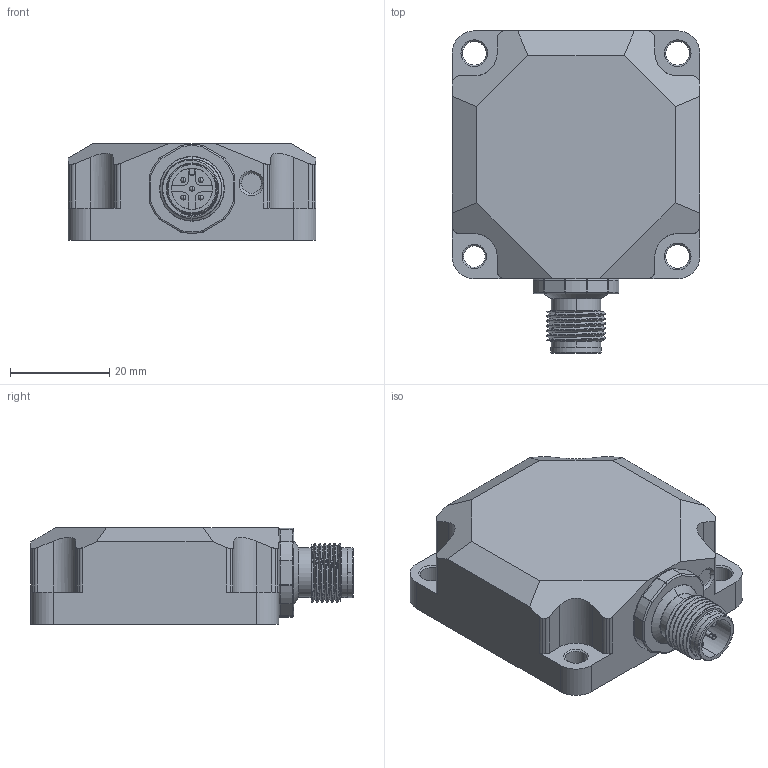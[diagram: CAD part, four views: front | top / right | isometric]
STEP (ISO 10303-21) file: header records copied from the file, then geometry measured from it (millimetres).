
FILE_DESCRIPTION((''),'2;1');
FILE_NAME('A2C-IMU-M12_ASM','2023-08-07T',('Administrator'),(''),'PRO/ENGINEER BY PARAMETRIC TECHNOLOGY CORPORATION, 2010480','PRO/ENGINEER BY PARAMETRIC TECHNOLOGY CORPORATION, 2010480','');
FILE_SCHEMA(('CONFIG_CONTROL_DESIGN'));
Length unit declared in the file: millimetre
Products named in the file (5): ENCLOSURE_50X50X19D5_M12; M-625-RMI; LIGHTGUIDE; LID; A2C-IMU-M12_ASM
Assembly tree (4 placements, depth 2):
  A2C-IMU-M12_ASM
    ENCLOSURE_50X50X19D5_M12
    M-625-RMI
    LIGHTGUIDE
    LID
Bounding box: 50 x 65 x 19.5 mm (x, y, z)
Volume: 21165.4 mm3; surface area: 17908.7 mm2
Topology: 5 solids, 5 shells, 548 faces, 1422 edges, 890 vertices
Faces by surface type: cylinder 238, plane 198, cone 46, sphere 34, torus 23, bspline 9
Entity records: 19252 total; most frequent: CARTESIAN_POINT 5487, DIRECTION 3002, ORIENTED_EDGE 2804, EDGE_CURVE 1402, AXIS2_PLACEMENT_3D 1124, VERTEX_POINT 890, VECTOR 754, LINE 754
